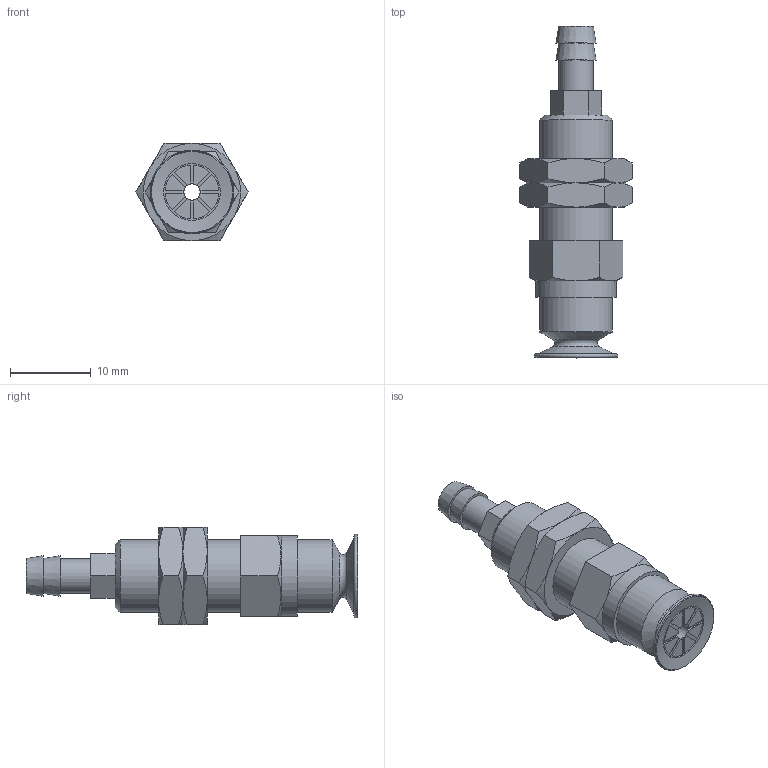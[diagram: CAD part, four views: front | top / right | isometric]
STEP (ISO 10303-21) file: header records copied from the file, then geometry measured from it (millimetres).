
FILE_DESCRIPTION(('STEP AP203'),'1');
FILE_NAME('.stp','2024-07-01T00:12:37',(' '),(' '),'Spatial InterOp 3D',' ',' ');
FILE_SCHEMA(('CONFIG_CONTROL_DESIGN'));
Length unit declared in the file: millimetre
Products named in the file (4): BBPATK-10B-_; Nut-10A-; BBPATK-10B; BPAG-10B-※_3D
Assembly tree (4 placements, depth 2):
  BBPATK-10B-_
    Nut-10A-  x2
    BBPATK-10B
    BPAG-10B-※_3D
Bounding box: 13.86 x 41 x 12 mm (x, y, z)
Volume: 2250.6 mm3; surface area: 2654.9 mm2
Topology: 4 solids, 4 shells, 143 faces, 326 edges, 201 vertices
Faces by surface type: plane 66, cone 43, cylinder 23, torus 11
Full cylindrical faces by diameter (mm): 2 x1, 3 x2, 4 x2, 4.134 x1, 4.3 x1, 6 x2, 7 x1, 7.917 x2, 9 x2, 10 x1
Entity records: 3686 total; most frequent: CARTESIAN_POINT 927, DIRECTION 546, ORIENTED_EDGE 468, EDGE_CURVE 234, AXIS2_PLACEMENT_3D 223, EDGE_LOOP 172, VERTEX_POINT 166, FACE_OUTER_BOUND 145
